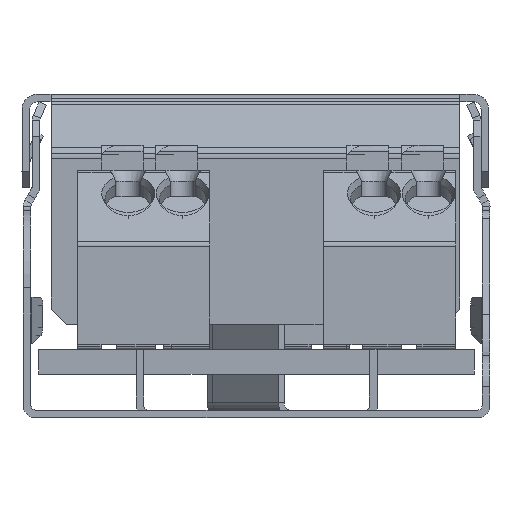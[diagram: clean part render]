
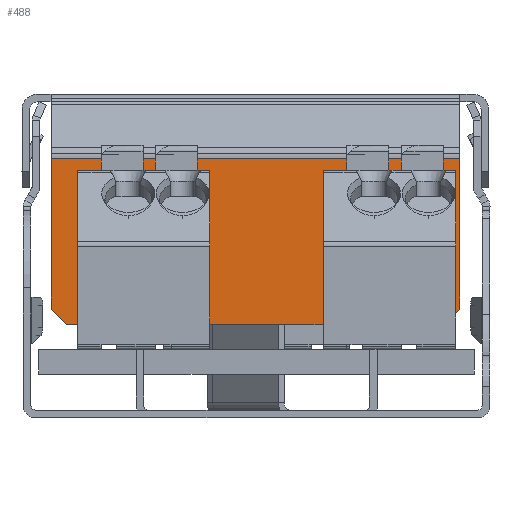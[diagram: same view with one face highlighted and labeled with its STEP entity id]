
A CAD part, front view. The second image highlights one B-rep face of the part: STEP entity #488.
In plain terms, the highlighted planar face has unit normal (0, -1, 0).
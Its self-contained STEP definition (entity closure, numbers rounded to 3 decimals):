
#345 = CARTESIAN_POINT ( 'NONE',  ( 9.257, -113.207, 7.193 ) ) ;
#488 = ADVANCED_FACE ( 'NONE', ( #3200 ), #4084, .T. ) ;
#1099 = LINE ( 'NONE', #16150, #10358 ) ;
#1206 = VECTOR ( 'NONE', #19983, 1000. ) ;
#1838 = CARTESIAN_POINT ( 'NONE',  ( 34.313, -113.207, 5.978 ) ) ;
#2652 = VERTEX_POINT ( 'NONE', #12482 ) ;
#2692 = EDGE_CURVE ( 'NONE', #2652, #19773, #2808, .T. ) ;
#2808 = LINE ( 'NONE', #9177, #15580 ) ;
#2853 = ORIENTED_EDGE ( 'NONE', *, *, #7272, .F. ) ;
#2996 = CARTESIAN_POINT ( 'NONE',  ( 9.257, -113.207, 16.843 ) ) ;
#3200 = FACE_OUTER_BOUND ( 'NONE', #22207, .T. ) ;
#3266 = CARTESIAN_POINT ( 'NONE',  ( 35.528, -113.207, 16.843 ) ) ;
#3919 = EDGE_CURVE ( 'NONE', #10030, #14738, #20765, .T. ) ;
#4084 = PLANE ( 'NONE',  #15488 ) ;
#4317 = EDGE_CURVE ( 'NONE', #19773, #10944, #7989, .T. ) ;
#4427 = ORIENTED_EDGE ( 'NONE', *, *, #2692, .F. ) ;
#4819 = VECTOR ( 'NONE', #21260, 1000. ) ;
#5765 = DIRECTION ( 'NONE',  ( 0., 0., 1. ) ) ;
#5814 = ORIENTED_EDGE ( 'NONE', *, *, #21935, .F. ) ;
#6580 = CARTESIAN_POINT ( 'NONE',  ( 9.042, -113.207, 7.408 ) ) ;
#7272 = EDGE_CURVE ( 'NONE', #10030, #14719, #13490, .T. ) ;
#7492 = CARTESIAN_POINT ( 'NONE',  ( 35.528, -113.207, 11.518 ) ) ;
#7556 = LINE ( 'NONE', #1838, #17302 ) ;
#7989 = LINE ( 'NONE', #6580, #11502 ) ;
#8849 = ORIENTED_EDGE ( 'NONE', *, *, #3919, .T. ) ;
#9177 = CARTESIAN_POINT ( 'NONE',  ( 22.393, -113.207, 6.193 ) ) ;
#9599 = CARTESIAN_POINT ( 'NONE',  ( 22.393, -113.207, 16.843 ) ) ;
#10030 = VERTEX_POINT ( 'NONE', #3266 ) ;
#10067 = DIRECTION ( 'NONE',  ( -0.707, 0., 0.707 ) ) ;
#10358 = VECTOR ( 'NONE', #5765, 1000. ) ;
#10944 = VERTEX_POINT ( 'NONE', #345 ) ;
#11074 = DIRECTION ( 'NONE',  ( -1., 0., 0. ) ) ;
#11502 = VECTOR ( 'NONE', #10067, 1000. ) ;
#12172 = DIRECTION ( 'NONE',  ( -0.707, 0., -0.707 ) ) ;
#12482 = CARTESIAN_POINT ( 'NONE',  ( 34.528, -113.207, 6.193 ) ) ;
#13299 = CARTESIAN_POINT ( 'NONE',  ( 35.528, -113.207, 7.193 ) ) ;
#13490 = LINE ( 'NONE', #7492, #4819 ) ;
#14719 = VERTEX_POINT ( 'NONE', #13299 ) ;
#14738 = VERTEX_POINT ( 'NONE', #2996 ) ;
#15488 = AXIS2_PLACEMENT_3D ( 'NONE', #16227, #21441, #11074 ) ;
#15580 = VECTOR ( 'NONE', #17796, 1000. ) ;
#16150 = CARTESIAN_POINT ( 'NONE',  ( 9.257, -113.207, 11.518 ) ) ;
#16227 = CARTESIAN_POINT ( 'NONE',  ( 36.054, -113.207, 17.147 ) ) ;
#17302 = VECTOR ( 'NONE', #12172, 1000. ) ;
#17484 = EDGE_CURVE ( 'NONE', #14719, #2652, #7556, .T. ) ;
#17796 = DIRECTION ( 'NONE',  ( -1., 0., 0. ) ) ;
#17936 = CARTESIAN_POINT ( 'NONE',  ( 10.257, -113.207, 6.193 ) ) ;
#19230 = ORIENTED_EDGE ( 'NONE', *, *, #4317, .F. ) ;
#19773 = VERTEX_POINT ( 'NONE', #17936 ) ;
#19983 = DIRECTION ( 'NONE',  ( -1., 0., 0. ) ) ;
#20714 = ORIENTED_EDGE ( 'NONE', *, *, #17484, .F. ) ;
#20765 = LINE ( 'NONE', #9599, #1206 ) ;
#21260 = DIRECTION ( 'NONE',  ( 0., 0., -1. ) ) ;
#21441 = DIRECTION ( 'NONE',  ( 0., -1., 0. ) ) ;
#21935 = EDGE_CURVE ( 'NONE', #10944, #14738, #1099, .T. ) ;
#22207 = EDGE_LOOP ( 'NONE', ( #19230, #4427, #20714, #2853, #8849, #5814 ) ) ;
